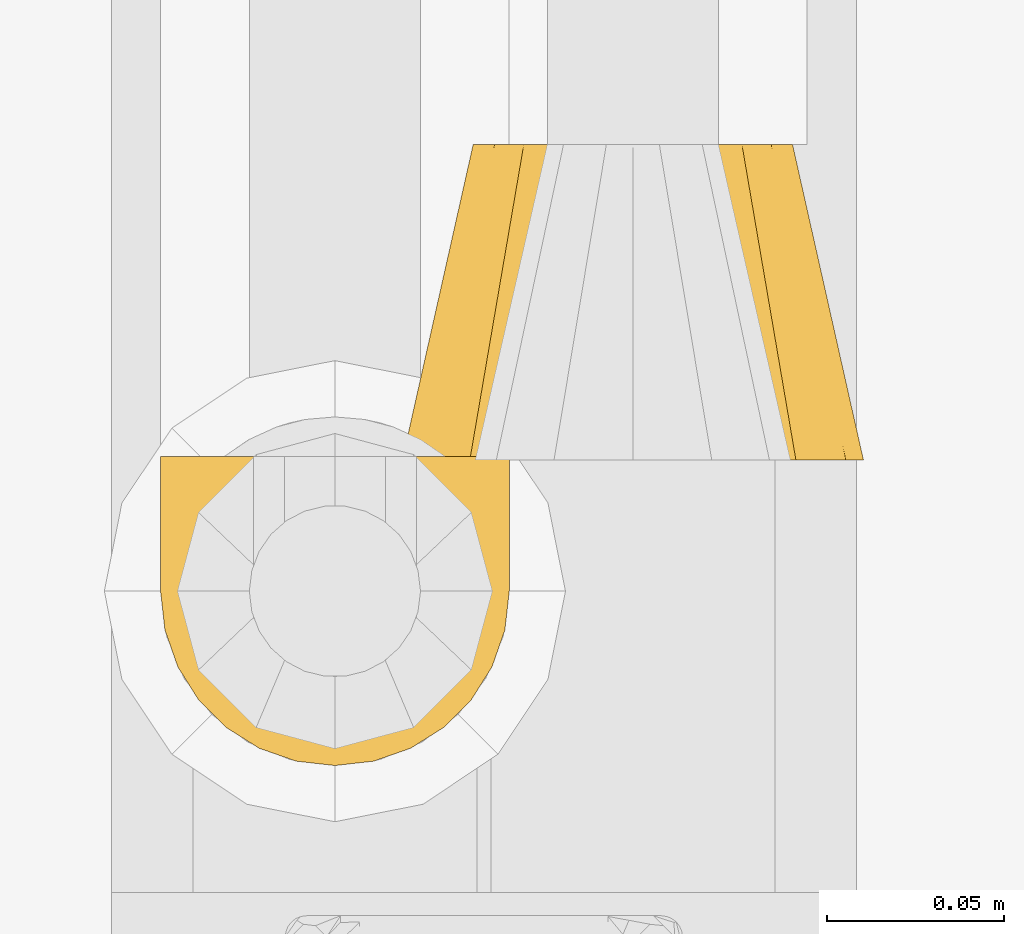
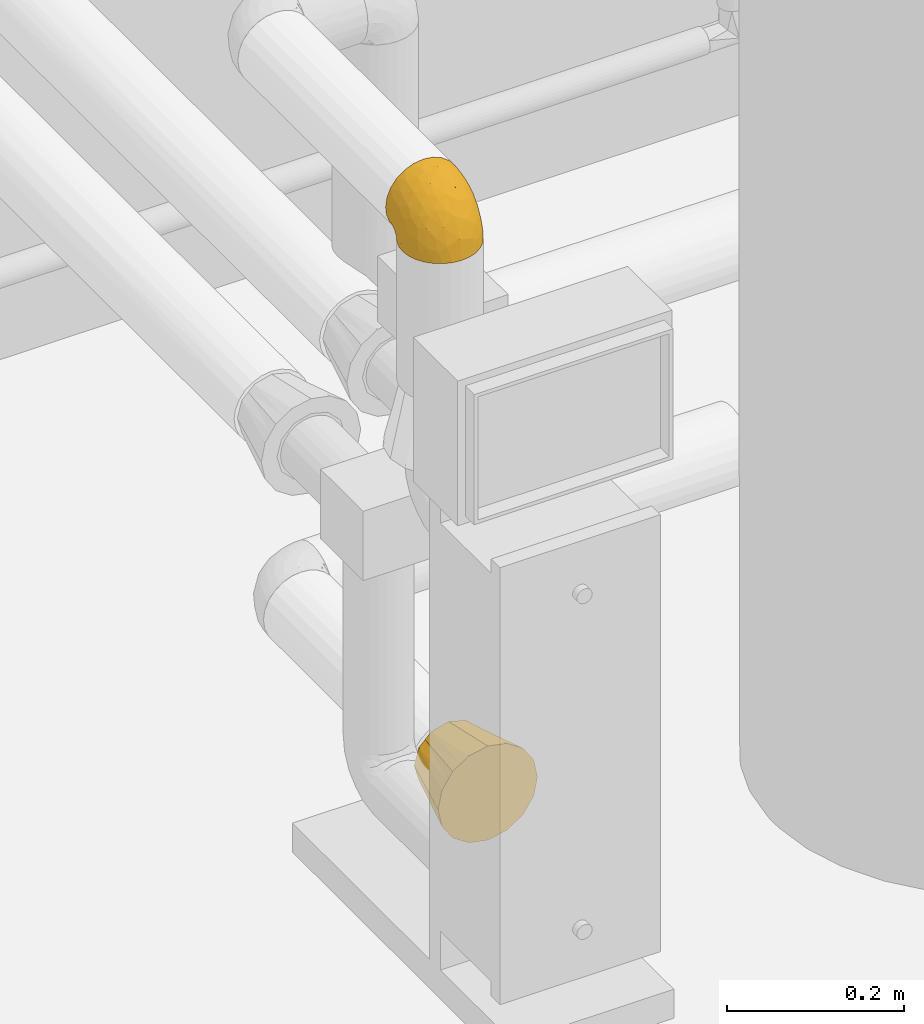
# One storey, part 24 of 94: 2 coverings.
"""IFC2X3 building model written with IfcOpenShell, lengths in millimetres."""

from ifc_helpers import new_model, entity, si_unit, converted_unit, derived_unit, direction, frame, origin, place, context, subcontext, project, spatial, faceted_brep, material, element, save


model = new_model("IFC2X3")

# Units and contexts
model_context = context("Model", 3, precision=0.01, world=origin(), true_north=direction((6.123031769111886e-17, 1.0)))
body_context = subcontext(model_context, "Body", "Model", "MODEL_VIEW")
ifc_project = project(units=[si_unit("LENGTHUNIT", "METRE", prefix="MILLI"), si_unit("AREAUNIT", "SQUARE_METRE"), si_unit("VOLUMEUNIT", "CUBIC_METRE"), converted_unit("PLANEANGLEUNIT", "DEGREE", entity("IfcRatioMeasure", 0.017453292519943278), si_unit("PLANEANGLEUNIT", "RADIAN"), dimensions=[0, 0, 0, 0, 0, 0, 0]), si_unit("MASSUNIT", "GRAM", prefix="KILO"), derived_unit("MASSDENSITYUNIT", [(si_unit("MASSUNIT", "GRAM", prefix="KILO"), 1), (si_unit("LENGTHUNIT", "METRE"), -3)]), derived_unit("IONCONCENTRATIONUNIT", [(si_unit("MASSUNIT", "GRAM", prefix="KILO"), 1), (si_unit("LENGTHUNIT", "METRE"), -3)]), derived_unit("MOMENTOFINERTIAUNIT", [(si_unit("LENGTHUNIT", "METRE"), 4)]), si_unit("TIMEUNIT", "SECOND"), si_unit("FREQUENCYUNIT", "HERTZ"), si_unit("THERMODYNAMICTEMPERATUREUNIT", "DEGREE_CELSIUS"), derived_unit("THERMALTRANSMITTANCEUNIT", [(si_unit("MASSUNIT", "GRAM", prefix="KILO"), 1), (si_unit("THERMODYNAMICTEMPERATUREUNIT", "KELVIN"), -1), (si_unit("TIMEUNIT", "SECOND"), -3)]), derived_unit("THERMALCONDUCTANCEUNIT", [(si_unit("MASSUNIT", "GRAM", prefix="KILO"), 1), (si_unit("THERMODYNAMICTEMPERATUREUNIT", "KELVIN"), -1), (si_unit("TIMEUNIT", "SECOND"), -3), (si_unit("LENGTHUNIT", "METRE"), 1)]), derived_unit("VOLUMETRICFLOWRATEUNIT", [(si_unit("LENGTHUNIT", "METRE"), 3), (si_unit("TIMEUNIT", "SECOND"), -1)]), derived_unit("MASSFLOWRATEUNIT", [(si_unit("MASSUNIT", "GRAM", prefix="KILO"), 1), (si_unit("TIMEUNIT", "SECOND"), -1)]), derived_unit("ROTATIONALFREQUENCYUNIT", [(si_unit("TIMEUNIT", "SECOND"), -1)]), si_unit("ELECTRICCURRENTUNIT", "AMPERE"), si_unit("ELECTRICVOLTAGEUNIT", "VOLT"), si_unit("POWERUNIT", "WATT"), si_unit("FORCEUNIT", "NEWTON", prefix="KILO"), si_unit("ILLUMINANCEUNIT", "LUX"), si_unit("LUMINOUSFLUXUNIT", "LUMEN"), si_unit("LUMINOUSINTENSITYUNIT", "CANDELA"), derived_unit("USERDEFINED", [(si_unit("MASSUNIT", "GRAM", prefix="KILO"), -1), (si_unit("LENGTHUNIT", "METRE"), -2), (si_unit("TIMEUNIT", "SECOND"), 3), (si_unit("LUMINOUSFLUXUNIT", "LUMEN"), 1)]), derived_unit("USERDEFINED", [(si_unit("MASSUNIT", "GRAM", prefix="KILO"), 1), (si_unit("TIMEUNIT", "SECOND"), -3), (si_unit("LENGTHUNIT", "METRE"), 3), (si_unit("ELECTRICCURRENTUNIT", "AMPERE"), -2)]), derived_unit("SOUNDPOWERUNIT", [(si_unit("MASSUNIT", "GRAM", prefix="KILO"), 1), (si_unit("TIMEUNIT", "SECOND"), -3), (si_unit("LENGTHUNIT", "METRE"), 2)]), derived_unit("SOUNDPRESSUREUNIT", [(si_unit("MASSUNIT", "GRAM", prefix="KILO"), 1), (si_unit("LENGTHUNIT", "METRE"), -1), (si_unit("TIMEUNIT", "SECOND"), -2)]), derived_unit("LINEARVELOCITYUNIT", [(si_unit("LENGTHUNIT", "METRE"), 1), (si_unit("TIMEUNIT", "SECOND"), -1)]), si_unit("PRESSUREUNIT", "PASCAL"), derived_unit("USERDEFINED", [(si_unit("MASSUNIT", "GRAM", prefix="KILO"), 1), (si_unit("LENGTHUNIT", "METRE"), -2), (si_unit("TIMEUNIT", "SECOND"), -2)]), derived_unit("LINEARFORCEUNIT", [(si_unit("MASSUNIT", "GRAM", prefix="KILO"), 1), (si_unit("TIMEUNIT", "SECOND"), -2)]), derived_unit("PLANARFORCEUNIT", [(si_unit("MASSUNIT", "GRAM", prefix="KILO"), 1), (si_unit("LENGTHUNIT", "METRE"), -1), (si_unit("TIMEUNIT", "SECOND"), -2)]), derived_unit("SPECIFICHEATCAPACITYUNIT", [(si_unit("THERMODYNAMICTEMPERATUREUNIT", "KELVIN"), -1), (si_unit("LENGTHUNIT", "METRE"), 2), (si_unit("TIMEUNIT", "SECOND"), -2)]), derived_unit("HEATINGVALUEUNIT", [(si_unit("LENGTHUNIT", "METRE"), 2), (si_unit("TIMEUNIT", "SECOND"), -2)]), derived_unit("VAPORPERMEABILITYUNIT", [(si_unit("LENGTHUNIT", "METRE"), -1), (si_unit("TIMEUNIT", "SECOND"), 1)]), derived_unit("DYNAMICVISCOSITYUNIT", [(si_unit("MASSUNIT", "GRAM", prefix="KILO"), 1), (si_unit("TIMEUNIT", "SECOND"), -1), (si_unit("LENGTHUNIT", "METRE"), -1)]), derived_unit("THERMALEXPANSIONCOEFFICIENTUNIT", [(si_unit("THERMODYNAMICTEMPERATUREUNIT", "KELVIN"), -1)]), derived_unit("MODULUSOFELASTICITYUNIT", [(si_unit("MASSUNIT", "GRAM", prefix="KILO"), 1), (si_unit("LENGTHUNIT", "METRE"), -1), (si_unit("TIMEUNIT", "SECOND"), -2)]), derived_unit("ISOTHERMALMOISTURECAPACITYUNIT", [(si_unit("LENGTHUNIT", "METRE"), 3), (si_unit("MASSUNIT", "GRAM", prefix="KILO"), -1)]), derived_unit("MOISTUREDIFFUSIVITYUNIT", [(si_unit("TIMEUNIT", "SECOND"), -1), (si_unit("LENGTHUNIT", "METRE"), 2)])], contexts=[model_context])

# Site, building, storey
site_placement = place(None, origin())
site = spatial("IfcSite", under=ifc_project, at=site_placement, Name="Default", CompositionType="ELEMENT")
building_placement = place(site_placement, origin())
building = spatial("IfcBuilding", under=site, at=building_placement, CompositionType="ELEMENT")
storey_placement = place(building_placement, origin())
storey = spatial("IfcBuildingStorey", under=building, at=storey_placement, Name="Niveau 0", CompositionType="ELEMENT", Elevation=0.0)

# Coverings
ifc_material = material(Name="Isolation - Laine minérale")
covering_1_placement = place(storey_placement, frame((-7061.48595441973, 8814.125147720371, 960.4047277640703)))
element("IfcCovering", 1, at=covering_1_placement, inside=storey, material=ifc_material, Name="Isolation des canalisations:Laine minérale", ObjectType="Isolation des canalisations:Laine minérale", PredefinedType="INSULATION", context=body_context, shape_type="Brep", body=[
    faceted_brep([(95.02415814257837, 29.41213456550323, 1.5952722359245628), (89.16631019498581, 20.093252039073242, 1.5952722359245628), (81.38263886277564, 12.312548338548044, 1.5952722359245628), (72.06354573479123, 6.459227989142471, 1.5952722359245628), (61.67593083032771, 2.826140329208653, 1.5952722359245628), (50.74527223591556, 1.5952722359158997, 1.5952722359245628), (39.80290363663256, 2.828812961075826, 1.5952722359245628), (29.41213456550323, 6.466386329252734, 1.5952722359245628), (20.093252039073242, 12.324234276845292, 1.5952722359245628), (12.31254833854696, 20.107905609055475, 1.5952722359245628), (6.459227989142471, 29.426998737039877, 1.5952722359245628), (2.826140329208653, 39.814613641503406, 1.5952722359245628), (1.5952722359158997, 50.74527223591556, 1.5952722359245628), (2.765001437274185, 61.40435822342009, 1.5952722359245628), (6.216868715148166, 71.55257335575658, 1.5952722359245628), (11.785042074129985, 80.70896636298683, 1.5952722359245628), (19.19437336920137, 88.43165280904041, 1.5952722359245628), (21.63864226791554, 88.43165280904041, 1.5952722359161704), (23.41569473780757, 88.43165280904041, 1.5952722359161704), (25.192747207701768, 88.43165280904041, 1.5952722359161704), (26.692340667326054, 88.43165280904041, 1.5952722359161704), (28.191934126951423, 88.43165280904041, 1.5952722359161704), (31.191121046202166, 88.43165280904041, 1.5952722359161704), (34.19030796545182, 88.43165280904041, 1.5952722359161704), (37.18949488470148, 88.43165280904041, 1.5952722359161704), (40.18868180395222, 88.43165280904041, 1.5952722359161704), (41.68827526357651, 88.43165280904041, 1.5952722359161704), (43.18786872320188, 88.43165280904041, 1.5952722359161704), (45.63213762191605, 88.43165280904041, 1.5952722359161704), (48.07640652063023, 88.43165280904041, 1.5952722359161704), (50.5206754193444, 88.43165280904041, 1.5952722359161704), (52.96494431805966, 88.43165280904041, 1.5952722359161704), (55.40921321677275, 88.43165280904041, 1.5952722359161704), (57.853482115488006, 88.43165280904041, 1.5952722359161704), (60.29775101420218, 88.43165280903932, 1.5952722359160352), (62.742019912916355, 88.43165280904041, 1.5952722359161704), (65.18628881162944, 88.4316528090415, 1.5952722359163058), (67.6305577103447, 88.43165280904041, 1.5952722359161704), (70.07482660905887, 88.43165280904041, 1.5952722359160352), (72.51909550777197, 88.43165280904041, 1.5952722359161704), (74.96336440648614, 88.43165280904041, 1.5952722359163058), (77.4076333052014, 88.43165280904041, 1.5952722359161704), (79.85190220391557, 88.43165280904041, 1.5952722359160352), (82.29617110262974, 88.43165280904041, 1.5952722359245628), (89.71827412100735, 80.69235262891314, 1.5952722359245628), (95.28368576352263, 71.53113811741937, 1.5952722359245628), (98.73008326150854, 61.38390047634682, 1.5952722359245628), (99.89527223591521, 50.74527223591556, 1.5952722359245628), (98.66173151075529, 39.80290363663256, 1.5952722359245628), (11.777056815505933, 88.74527223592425, 9.641963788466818), (6.211862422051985, 88.74527223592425, 18.798688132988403), (2.7632985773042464, 88.74527223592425, 28.94385431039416), (1.5952722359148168, 88.74527223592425, 39.595272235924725), (3.270017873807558, 88.74527223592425, 52.31622830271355), (8.18012363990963, 88.74527223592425, 64.17027223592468), (15.990973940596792, 88.74527223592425, 74.34957053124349), (26.17027223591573, 88.74527223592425, 82.16042083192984), (38.02431616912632, 88.74527223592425, 87.07052659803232), (50.74527223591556, 88.74527223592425, 88.74527223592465), (63.466228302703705, 88.74527223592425, 87.07052659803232), (75.32027223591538, 88.74527223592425, 82.16042083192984), (85.49957053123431, 88.74527223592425, 74.34957053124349), (93.3104208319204, 88.74527223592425, 64.17027223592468), (98.22052659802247, 88.74527223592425, 52.31622830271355), (99.89527223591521, 88.74527223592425, 39.595272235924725), (98.72724589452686, 88.74527223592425, 28.943854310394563), (95.27868204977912, 88.74527223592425, 18.798688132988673), (89.71348765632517, 88.74527223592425, 9.641963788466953), (82.29617110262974, 88.74527223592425, 1.908891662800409), (79.85190220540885, 88.74527223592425, 1.9088916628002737), (78.3523087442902, 88.74527223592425, 1.9088916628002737), (76.38037756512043, 88.74527223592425, 1.9088916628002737), (74.40844638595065, 88.74527223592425, 1.9088916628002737), (72.43651520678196, 88.74527223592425, 1.9088916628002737), (70.46458402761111, 88.74527223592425, 1.9088916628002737), (68.49265284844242, 88.74527223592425, 1.9088916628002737), (66.52072166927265, 88.74527223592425, 1.9088916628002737), (64.54879049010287, 88.74527223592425, 1.9088916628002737), (62.5768593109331, 88.74527223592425, 1.9088916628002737), (60.60492813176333, 88.74527223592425, 1.9088916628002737), (58.632996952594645, 88.74527223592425, 1.9088916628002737), (56.661065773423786, 88.74527223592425, 1.9088916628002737), (54.6891345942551, 88.74527223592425, 1.9088916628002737), (52.71720341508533, 88.74527223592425, 1.9088916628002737), (50.74527223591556, 88.74527223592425, 1.9088916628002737), (48.7733410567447, 88.74527223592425, 1.9088916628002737), (46.80140987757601, 88.74527223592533, 1.9088916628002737), (44.82947869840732, 88.74527223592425, 1.9088916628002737), (42.85754751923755, 88.74527223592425, 1.9088916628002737), (40.8856163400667, 88.74527223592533, 1.9088916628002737), (38.913685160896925, 88.74527223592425, 1.908891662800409), (36.94175398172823, 88.74527223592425, 1.9088916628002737), (34.96982280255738, 88.74527223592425, 1.9088916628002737), (31.97063588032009, 88.74527223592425, 1.9088916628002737), (28.97144895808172, 88.74527223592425, 1.9088916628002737), (26.5271800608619, 88.74527223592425, 1.9088916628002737), (24.082911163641, 88.74527223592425, 1.9088916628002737), (21.638642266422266, 88.74527223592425, 1.9088916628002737), (19.19437336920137, 88.74527223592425, 1.9088916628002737), (53.75333970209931, 88.53090125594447, 1.8241875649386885), (51.832765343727, 88.52210831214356, 1.8156242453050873), (61.47290163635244, 88.521221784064, 1.8147227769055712), (63.56282540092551, 88.5277799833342, 1.821224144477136), (48.00102702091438, 88.54092532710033, 1.8331787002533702), (77.24999397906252, 88.53506454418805, 1.8280164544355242), (80.69913834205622, 88.49130573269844, 1.7792781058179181), (42.43807145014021, 88.51810292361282, 1.8114926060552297), (22.860776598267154, 88.52350981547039, 1.8170346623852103), (24.70021643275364, 88.52548149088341, 1.8189889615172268), (71.3700895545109, 88.51653277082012, 1.8098308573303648), (73.40383885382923, 88.52674320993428, 1.8202215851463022), (44.410002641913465, 88.5046900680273, 1.796462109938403), (37.92771907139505, 88.52964682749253, 1.8230063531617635), (39.81308540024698, 88.53317608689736, 1.8262968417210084), (35.95578792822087, 88.51585328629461, 1.8091041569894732), (49.75930651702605, 88.52914218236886, 1.8225274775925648), (21.02757498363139, 88.52591800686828, 1.8194169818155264), (55.67510065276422, 88.5366490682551, 1.829437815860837), (67.50668767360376, 88.5374788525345, 1.830174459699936), (65.61454699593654, 88.53273195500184, 1.82588831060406), (34.10458092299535, 88.53426299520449, 1.8272900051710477), (57.55217518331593, 88.53370000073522, 1.826776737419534), (79.10210557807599, 88.52350981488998, 1.817034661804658), (75.39441218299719, 88.53493173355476, 1.827896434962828), (82.29617110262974, 88.5235098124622, 1.8170346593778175), (82.29617110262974, 88.49487979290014, 1.7479156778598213), (82.29617110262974, 88.46624977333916, 1.6787966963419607), (19.19437336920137, 88.5235098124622, 1.8170346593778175), (19.19437336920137, 88.59262879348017, 1.845664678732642), (19.19437336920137, 88.66174777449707, 1.8742946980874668), (32.212157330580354, 88.51000647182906, 1.8026539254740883), (69.4355922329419, 88.5304248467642, 1.8237404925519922), (46.24828797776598, 88.52246762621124, 1.81598755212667), (59.49061335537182, 88.52470424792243, 1.8182226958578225), (29.41925201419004, 88.50579329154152, 1.797774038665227), (27.44213716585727, 88.52744143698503, 1.820897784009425), (82.29617110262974, 88.66174777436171, 1.8742946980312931), (82.29617110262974, 88.59262879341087, 1.8456646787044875), (19.19437336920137, 88.46624977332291, 1.678796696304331), (19.19437336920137, 88.49487979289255, 1.7479156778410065), (4.210283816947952, 85.22080157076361, 23.495219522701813), (8.744179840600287, 85.93611072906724, 13.747756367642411), (4.210283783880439, 81.07807843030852, 22.40977987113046), (9.955583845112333, 83.13289242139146, 10.562522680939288), (1.5952722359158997, 79.24527223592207, 37.049754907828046), (1.5952722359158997, 81.28890223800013, 37.59734391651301), (1.5952722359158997, 55.83630689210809, 20.595272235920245), (2.93549782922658, 66.39553001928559, 16.020149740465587), (4.213452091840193, 67.94040403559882, 9.261677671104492), (1.5952722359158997, 69.7452722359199, 34.504237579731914), (9.405305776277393, 80.67378389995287, 9.667897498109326), (9.963487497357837, 79.7889209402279, 7.202912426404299), (2.9356418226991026, 74.32109358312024, 23.944746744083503), (4.213452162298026, 66.85470593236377, 5.119390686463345), (8.750654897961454, 76.60336361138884, 4.402893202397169), (5.690627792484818, 79.6491193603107, 17.541506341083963), (1.5952722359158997, 52.74320051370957, 9.051642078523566), (1.5952722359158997, 53.290789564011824, 11.095272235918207), (4.482619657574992, 73.61168493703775, 16.72885944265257), (1.5952722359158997, 62.790789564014, 27.54975490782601), (5.766057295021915, 73.87988529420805, 12.071559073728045), (2.6117250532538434, 75.32913676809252, 47.62395095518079), (2.657531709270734, 65.91074185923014, 44.00144112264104), (11.131578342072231, 53.84761415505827, 58.89969890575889), (20.82464790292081, 59.13651173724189, 72.66771487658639), (11.7519547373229, 71.16612245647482, 67.20155656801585), (5.336592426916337, 67.00545271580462, 54.07984229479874), (5.336592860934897, 78.88051287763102, 57.54110754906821), (50.74527223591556, 37.51978749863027, 72.10110329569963), (50.74527223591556, 61.81444117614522, 84.4798476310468), (40.339739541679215, 53.87520138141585, 80.24801351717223), (9.124243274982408, 25.78494399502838, 13.851436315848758), (4.351045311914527, 36.244182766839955, 15.165285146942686), (32.64695426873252, 29.562882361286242, 60.77765845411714), (23.768909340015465, 30.770681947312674, 55.385836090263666), (35.61531809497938, 15.292222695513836, 43.897375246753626), (41.696133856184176, 71.31385843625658, 86.12648113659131), (30.50981773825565, 47.24102741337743, 73.23168363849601), (21.748430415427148, 43.50389303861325, 64.74738573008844), (20.824647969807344, 75.28985257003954, 77.40373146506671), (31.93638275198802, 67.10273039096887, 82.14716981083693), (15.984346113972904, 37.099200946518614, 52.82911549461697), (9.509703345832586, 44.51517687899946, 48.878965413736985), (11.405769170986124, 33.70477633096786, 40.60722086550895), (3.7235321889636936, 44.051694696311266, 28.769953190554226), (9.124242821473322, 30.04408126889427, 27.448445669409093), (15.984347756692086, 18.312338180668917, 19.800365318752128), (50.74527223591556, 5.860696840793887, 28.52610329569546), (34.50535109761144, 7.041406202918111, 22.7156219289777), (18.535934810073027, 25.61446965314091, 42.317485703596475), (24.588194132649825, 15.886915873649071, 33.68382770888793), (24.588193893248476, 10.600409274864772, 16.806973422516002), (39.07585882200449, 38.50378416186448, 71.07858054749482), (42.346184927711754, 25.345180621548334, 60.33249182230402), (2.5632520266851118, 53.16350413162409, 33.373321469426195), (50.74527223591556, 18.239441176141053, 52.82075697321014), (4.722449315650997, 52.69469876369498, 43.46542968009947), (69.5541610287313, 58.175892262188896, 79.20017463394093), (59.5851078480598, 71.70091272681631, 86.24488809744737), (59.865425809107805, 54.574333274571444, 80.83807017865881), (66.13789702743, 42.49805076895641, 72.52816019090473), (69.55416221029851, 75.0623548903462, 83.87397883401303), (85.49332197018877, 24.525141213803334, 35.798660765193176), (78.98858976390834, 25.786342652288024, 48.02046276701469), (76.88743080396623, 15.878231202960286, 33.687367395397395), (85.49294527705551, 37.089792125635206, 52.83844921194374), (78.28666517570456, 35.71336208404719, 59.75598123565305), (97.13479117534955, 36.23150879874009, 15.170016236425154), (98.95303587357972, 70.53804152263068, 45.55141709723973), (99.89527223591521, 69.7452722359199, 34.504237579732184), (99.89527223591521, 79.24527223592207, 37.049754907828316), (66.97173870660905, 7.036299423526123, 22.71467774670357), (80.66589652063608, 69.24086116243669, 76.07714087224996), (92.35692696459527, 30.030512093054, 27.454651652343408), (92.35692651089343, 25.770245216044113, 13.854008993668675), (89.73858944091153, 76.87540408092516, 68.47065883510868), (96.15395178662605, 74.00473445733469, 56.45843349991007), (79.62483877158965, 48.41047025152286, 68.0885450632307), (89.7385902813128, 62.62553049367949, 64.29272071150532), (59.508159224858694, 31.220776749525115, 66.01125638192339), (68.8345286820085, 29.56034539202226, 60.78019542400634), (99.01263503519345, 79.82666983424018, 48.01911236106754), (76.887431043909, 10.591274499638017, 16.809109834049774), (65.85652255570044, 15.287247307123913, 43.90085348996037), (85.49294363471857, 18.299506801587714, 19.8036819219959), (97.76388503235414, 44.049870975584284, 28.78672684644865), (99.89527223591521, 55.83630689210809, 20.59527223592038), (98.78930951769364, 54.23536248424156, 35.485066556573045), (99.89527223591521, 62.790789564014, 27.54975490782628), (99.89527223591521, 52.74320051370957, 9.05164207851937), (99.89527223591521, 53.290789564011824, 11.095272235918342), (91.50386042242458, 48.41211537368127, 53.162912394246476), (96.42683125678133, 64.14304703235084, 52.05308452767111), (93.1499194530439, 40.10640265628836, 41.40103739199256), (99.08337182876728, 62.890734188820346, 40.721221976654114), (86.09107557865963, 47.67277833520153, 60.91677547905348), (96.67816905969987, 55.38955823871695, 45.94061161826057), (97.28026029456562, 81.0780784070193, 22.409778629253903), (95.72662397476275, 78.26566497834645, 16.46425424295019), (98.5546584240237, 74.32072912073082, 23.943292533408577), (97.28026045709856, 85.22080145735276, 23.495218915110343), (92.74636428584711, 85.93611080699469, 13.747755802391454), (91.53641117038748, 83.13257230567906, 10.564867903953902), (90.1127562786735, 82.68198005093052, 7.656624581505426), (97.0051951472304, 73.61706381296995, 16.72348133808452), (91.54965419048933, 79.75777141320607, 7.216517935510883), (97.2842704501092, 67.91845358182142, 9.263185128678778), (97.28427059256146, 66.83334757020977, 5.1195933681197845), (92.7514749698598, 76.58449008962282, 4.405878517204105), (98.55441347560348, 66.3977076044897, 16.018627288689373), (95.80583125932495, 72.78382599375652, 10.692146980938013)], [[[0, 1, 2, 3, 4, 5, 6, 7, 8, 9, 10, 11, 12, 13, 14, 15, 16, 17, 18, 19, 20, 21, 22, 23, 24, 25, 26, 27, 28, 29, 30, 31, 32, 33, 34, 35, 36, 37, 38, 39, 40, 41, 42, 43, 44, 45, 46, 47, 48]], [[49, 50, 51, 52, 53, 54, 55, 56, 57, 58, 59, 60, 61, 62, 63, 64, 65, 66, 67, 68, 69, 70, 71, 72, 73, 74, 75, 76, 77, 78, 79, 80, 81, 82, 83, 84, 85, 86, 87, 88, 89, 90, 91, 92, 93, 94, 95, 96, 97, 98]], [[99, 100, 83]], [[101, 102, 35]], [[85, 103, 86]], [[71, 70, 104]], [[105, 69, 68]], [[27, 26, 106]], [[18, 107, 108]], [[109, 73, 110]], [[28, 27, 111]], [[25, 112, 113]], [[108, 96, 95]], [[114, 92, 91]], [[103, 85, 115]], [[96, 107, 97]], [[107, 17, 116]], [[78, 102, 101]], [[99, 117, 32]], [[76, 118, 119]], [[120, 92, 114]], [[112, 90, 113]], [[88, 111, 106]], [[40, 39, 110]], [[107, 96, 108]], [[32, 117, 121]], [[91, 90, 112]], [[37, 119, 118]], [[84, 115, 85]], [[69, 105, 122]], [[71, 123, 72]], [[105, 124, 125, 126, 43]], [[116, 17, 16]], [[122, 70, 69]], [[41, 122, 42]], [[116, 127, 128, 129, 98]], [[110, 123, 40]], [[42, 122, 105]], [[120, 23, 130]], [[24, 114, 112]], [[114, 24, 23]], [[104, 123, 71]], [[91, 112, 114]], [[104, 122, 41]], [[24, 112, 25]], [[110, 72, 123]], [[36, 119, 37]], [[40, 123, 41]], [[74, 73, 109]], [[131, 75, 74]], [[118, 131, 37]], [[109, 110, 39]], [[109, 39, 38]], [[73, 72, 110]], [[123, 104, 41]], [[122, 104, 70]], [[26, 25, 113]], [[113, 89, 106]], [[87, 86, 132]], [[113, 106, 26]], [[76, 75, 118]], [[132, 111, 87]], [[106, 111, 27]], [[132, 28, 111]], [[87, 111, 88]], [[88, 106, 89]], [[113, 90, 89]], [[131, 118, 75]], [[38, 37, 131]], [[119, 36, 102]], [[131, 109, 38]], [[109, 131, 74]], [[78, 77, 102]], [[77, 119, 102]], [[77, 76, 119]], [[121, 80, 133]], [[36, 35, 102]], [[33, 121, 133]], [[79, 78, 101]], [[34, 101, 35]], [[132, 29, 28]], [[80, 79, 133]], [[29, 103, 115]], [[30, 29, 115]], [[86, 103, 132]], [[100, 115, 84]], [[31, 30, 100]], [[115, 100, 30]], [[32, 31, 99]], [[117, 81, 121]], [[100, 84, 83]], [[99, 82, 117]], [[81, 117, 82]], [[33, 32, 121]], [[82, 99, 83]], [[100, 99, 31]], [[34, 33, 133]], [[121, 81, 80]], [[133, 101, 34]], [[101, 133, 79]], [[134, 94, 93]], [[23, 120, 114]], [[132, 103, 29]], [[120, 93, 92]], [[93, 120, 130]], [[97, 107, 116]], [[108, 20, 19, 18]], [[21, 135, 134]], [[20, 135, 21]], [[134, 135, 94]], [[108, 95, 135]], [[108, 135, 20]], [[135, 95, 94]], [[134, 22, 21]], [[130, 22, 134]], [[42, 105, 43]], [[105, 68, 136, 137, 124]], [[97, 116, 98]], [[116, 16, 138, 139, 127]], [[18, 17, 107]], [[93, 130, 134]], [[22, 130, 23]], [[140, 141, 142]], [[143, 129, 128, 127]], [[51, 144, 145, 52]], [[146, 147, 148]], [[142, 149, 144]], [[150, 127, 151]], [[50, 140, 51]], [[142, 152, 149]], [[51, 140, 144]], [[129, 143, 141]], [[14, 13, 153]], [[148, 151, 154]], [[155, 141, 143]], [[151, 138, 154]], [[14, 153, 154]], [[16, 15, 138]], [[13, 12, 156, 157]], [[152, 155, 158]], [[159, 158, 147]], [[157, 148, 153]], [[14, 154, 15]], [[49, 98, 129]], [[49, 129, 141]], [[141, 50, 49]], [[160, 148, 147]], [[146, 148, 157]], [[138, 15, 154]], [[150, 158, 155]], [[151, 127, 139, 138]], [[141, 140, 50]], [[144, 140, 142]], [[157, 153, 13]], [[154, 153, 148]], [[149, 152, 159]], [[160, 147, 158]], [[147, 146, 159]], [[155, 152, 142]], [[159, 152, 158]], [[127, 150, 143]], [[160, 150, 151]], [[150, 160, 158]], [[148, 160, 151]], [[141, 155, 142]], [[155, 143, 150]], [[156, 12, 11]], [[161, 149, 162]], [[163, 164, 165]], [[166, 167, 161]], [[168, 169, 170]], [[54, 165, 55]], [[171, 172, 10]], [[173, 174, 175]], [[57, 176, 58]], [[173, 177, 178]], [[179, 56, 55]], [[54, 167, 165]], [[170, 180, 177]], [[56, 179, 180]], [[167, 54, 53]], [[181, 182, 183]], [[184, 146, 172]], [[172, 185, 184]], [[186, 185, 171]], [[186, 9, 8]], [[172, 146, 157, 156]], [[172, 11, 10]], [[173, 178, 174]], [[6, 187, 188]], [[189, 186, 190]], [[191, 186, 8]], [[175, 190, 188]], [[168, 192, 193]], [[189, 190, 174]], [[56, 180, 57]], [[8, 7, 191]], [[188, 7, 6]], [[6, 5, 187]], [[190, 191, 188]], [[159, 194, 162]], [[175, 187, 195]], [[177, 180, 164]], [[10, 9, 171]], [[176, 180, 170]], [[156, 11, 172]], [[163, 165, 166]], [[179, 165, 164]], [[53, 52, 145]], [[185, 189, 183]], [[184, 196, 194]], [[188, 191, 7]], [[186, 191, 190]], [[186, 171, 9]], [[172, 171, 185]], [[187, 175, 188]], [[193, 175, 195]], [[196, 163, 166]], [[163, 181, 178]], [[162, 166, 161]], [[184, 185, 183]], [[178, 177, 164]], [[177, 192, 170]], [[177, 173, 192]], [[176, 170, 169]], [[58, 176, 169]], [[57, 180, 176]], [[193, 192, 173]], [[168, 170, 192]], [[175, 193, 173]], [[168, 193, 195]], [[163, 178, 164]], [[184, 194, 146]], [[178, 181, 174]], [[189, 174, 181]], [[175, 174, 190]], [[183, 189, 181]], [[186, 189, 185]], [[182, 181, 163]], [[183, 182, 184]], [[163, 196, 182]], [[184, 182, 196]], [[165, 179, 55]], [[180, 179, 164]], [[161, 53, 145]], [[165, 167, 166]], [[53, 161, 167]], [[161, 145, 144, 149]], [[159, 162, 149]], [[196, 166, 162]], [[162, 194, 196]], [[146, 194, 159]], [[197, 198, 199]], [[58, 169, 198]], [[197, 199, 200]], [[198, 197, 201]], [[202, 203, 204]], [[60, 59, 201]], [[205, 206, 203]], [[0, 48, 207]], [[208, 209, 210]], [[187, 4, 211]], [[201, 212, 60]], [[213, 214, 207]], [[61, 215, 62]], [[62, 215, 216]], [[3, 211, 4]], [[217, 218, 212]], [[219, 220, 200]], [[216, 208, 221]], [[3, 2, 222]], [[62, 216, 63]], [[61, 60, 212]], [[211, 3, 222]], [[5, 4, 187]], [[217, 197, 200]], [[203, 223, 204]], [[2, 1, 224]], [[225, 213, 207]], [[204, 222, 224]], [[1, 0, 214]], [[204, 224, 202]], [[207, 226, 225]], [[227, 226, 228]], [[223, 211, 204]], [[214, 224, 1]], [[202, 224, 213]], [[48, 47, 229]], [[207, 229, 230, 226]], [[211, 223, 187]], [[218, 231, 232]], [[48, 229, 207]], [[205, 233, 231]], [[233, 213, 225]], [[217, 212, 197]], [[215, 212, 218]], [[228, 234, 227]], [[233, 205, 202]], [[208, 234, 209]], [[63, 221, 64]], [[235, 205, 231]], [[207, 214, 0]], [[224, 214, 213]], [[224, 222, 2]], [[211, 222, 204]], [[219, 223, 220]], [[187, 223, 195]], [[227, 233, 225]], [[234, 228, 209]], [[231, 233, 236]], [[221, 208, 210]], [[232, 208, 216]], [[64, 221, 210]], [[216, 221, 63]], [[233, 202, 213]], [[203, 202, 205]], [[205, 235, 206]], [[223, 203, 220]], [[200, 206, 217]], [[220, 203, 206]], [[232, 231, 236]], [[235, 218, 217]], [[212, 215, 61]], [[216, 215, 218]], [[218, 232, 216]], [[234, 232, 236]], [[232, 234, 208]], [[234, 236, 227]], [[233, 227, 236]], [[226, 227, 225]], [[198, 201, 59]], [[212, 201, 197]], [[58, 198, 59]], [[198, 169, 199]], [[169, 168, 199]], [[219, 200, 199]], [[219, 199, 168]], [[200, 220, 206]], [[168, 195, 219]], [[223, 219, 195]], [[218, 235, 231]], [[206, 235, 217]], [[65, 64, 210]], [[209, 237, 210]], [[238, 237, 239]], [[66, 240, 241]], [[242, 136, 241]], [[243, 137, 242]], [[243, 244, 245]], [[65, 240, 66]], [[136, 68, 67]], [[136, 67, 241]], [[246, 226, 230]], [[66, 241, 67]], [[210, 237, 240]], [[45, 247, 46]], [[209, 239, 237]], [[246, 247, 248]], [[46, 247, 230]], [[249, 250, 244]], [[239, 228, 244]], [[226, 246, 249]], [[250, 248, 245]], [[44, 43, 126]], [[237, 242, 241]], [[248, 45, 44]], [[44, 126, 248]], [[46, 230, 229, 47]], [[245, 126, 125]], [[126, 245, 248]], [[243, 124, 137]], [[210, 240, 65]], [[241, 240, 237]], [[248, 247, 45]], [[230, 247, 246]], [[226, 249, 228]], [[238, 239, 244]], [[239, 209, 228]], [[250, 249, 246]], [[228, 249, 244]], [[243, 242, 238]], [[136, 242, 137]], [[124, 243, 125]], [[125, 243, 245]], [[243, 238, 244]], [[237, 238, 242]], [[248, 250, 246]], [[244, 250, 245]]]),
])
covering_2_placement = place(storey_placement, frame((-6993.335954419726, 8901.870419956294, 77.4047277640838)))
element("IfcCovering", 2, at=covering_2_placement, inside=storey, material=ifc_material, Name="Isolation des canalisations:Laine minérale", ObjectType="Isolation des canalisations:Laine minérale", PredefinedType="INSULATION", context=body_context, shape_type="Brep", body=[
    faceted_brep([(44.09527223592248, 89.0, 105.56641540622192), (55.34527223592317, 89.0, 108.58084382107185), (66.59527223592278, 89.0, 111.5952722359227), (77.8452722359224, 89.0, 108.58084382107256), (89.09527223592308, 89.0, 105.56641540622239), (97.33084382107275, 89.0, 97.33084382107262), (105.56641540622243, 89.0, 89.0952722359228), (108.58084382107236, 89.0, 77.84527223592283), (111.5952722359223, 89.0, 66.59527223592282), (108.58084382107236, 89.0, 55.3452722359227), (105.56641540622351, 89.0, 44.095272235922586), (97.33084382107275, 89.0, 35.85970065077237), (89.09527223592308, 89.0, 27.62412906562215), (77.8452722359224, 89.0, 24.609700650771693), (66.59527223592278, 89.0, 21.595272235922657), (55.34527223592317, 89.0, 24.609700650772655), (44.09527223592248, 89.0, 27.624129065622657), (35.85970065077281, 89.0, 35.85970065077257), (27.62412906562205, 89.0, 44.09527223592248), (24.609700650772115, 89.0, 55.3452722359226), (21.595272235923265, 89.0, 66.59527223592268), (24.6097006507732, 89.0, 77.8452722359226), (27.624129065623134, 89.0, 89.09527223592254), (35.85970065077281, 89.0, 97.33084382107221), (6.543102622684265, 0.0, 91.4696953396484), (4.069187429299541, 0.0, 79.03248378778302), (1.5952722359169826, 0.0, 66.59527223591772), (4.069187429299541, 0.0, 54.158060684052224), (6.543102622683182, 0.0, 41.72084913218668), (13.588217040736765, 0.0, 31.177090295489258), (20.63333145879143, 0.0, 20.633331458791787), (31.1770902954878, 0.0, 13.588217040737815), (41.72084913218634, 0.0, 6.543102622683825), (54.158060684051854, 0.0, 4.069187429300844), (66.59527223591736, 0.0, 1.5952722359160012), (79.03248378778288, 0.0, 4.069187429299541), (91.46969533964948, 0.0, 6.543102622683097), (102.01345417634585, 0.0, 13.588217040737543), (112.55721301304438, 0.0, 20.633331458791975), (119.60232743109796, 0.0, 31.17709029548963), (126.64744184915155, 0.0, 41.72084913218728), (129.1213570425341, 0.0, 54.1580606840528), (131.59527223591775, 0.0, 66.59527223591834), (129.12135704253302, 0.0, 79.03248378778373), (126.64744184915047, 0.0, 91.46969533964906), (119.6023274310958, 0.0, 102.01345417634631), (112.55721301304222, 0.0, 112.55721301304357), (102.01345417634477, 0.0, 119.60232743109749), (91.46969533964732, 0.0, 126.64744184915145), (79.03248378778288, 0.0, 129.12135704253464), (66.59527223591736, 0.0, 131.5952722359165), (54.158060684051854, 0.0, 129.1213570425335), (41.72084913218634, 0.0, 126.64744184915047), (31.1770902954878, 0.0, 119.60232743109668), (20.63333145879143, 0.0, 112.55721301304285), (13.588217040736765, 0.0, 102.01345417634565)], [[[0, 1, 2, 3, 4, 5, 6, 7, 8, 9, 10, 11, 12, 13, 14, 15, 16, 17, 18, 19, 20, 21, 22, 23]], [[24, 25, 26, 27, 28, 29, 30, 31, 32, 33, 34, 35, 36, 37, 38, 39, 40, 41, 42, 43, 44, 45, 46, 47, 48, 49, 50, 51, 52, 53, 54, 55]], [[35, 34, 14]], [[10, 40, 39]], [[37, 36, 12]], [[37, 12, 11]], [[10, 39, 11]], [[37, 11, 38]], [[41, 40, 9]], [[14, 13, 35]], [[39, 38, 11]], [[8, 41, 9]], [[13, 12, 36]], [[41, 8, 42]], [[40, 10, 9]], [[13, 36, 35]], [[27, 26, 20]], [[16, 32, 31]], [[29, 28, 18]], [[29, 18, 17]], [[16, 31, 17]], [[29, 17, 30]], [[33, 32, 15]], [[20, 19, 27]], [[31, 30, 17]], [[14, 33, 15]], [[19, 18, 28]], [[33, 14, 34]], [[32, 16, 15]], [[19, 28, 27]], [[51, 50, 2]], [[22, 24, 55]], [[53, 52, 0]], [[53, 0, 23]], [[22, 55, 23]], [[53, 23, 54]], [[25, 24, 21]], [[2, 1, 51]], [[55, 54, 23]], [[20, 25, 21]], [[1, 0, 52]], [[25, 20, 26]], [[24, 22, 21]], [[1, 52, 51]], [[43, 42, 8]], [[4, 48, 47]], [[45, 44, 6]], [[45, 6, 5]], [[4, 47, 5]], [[45, 5, 46]], [[49, 48, 3]], [[8, 7, 43]], [[47, 46, 5]], [[2, 49, 3]], [[7, 6, 44]], [[49, 2, 50]], [[48, 4, 3]], [[7, 44, 43]]]),
])

save(model, "model.ifc")
